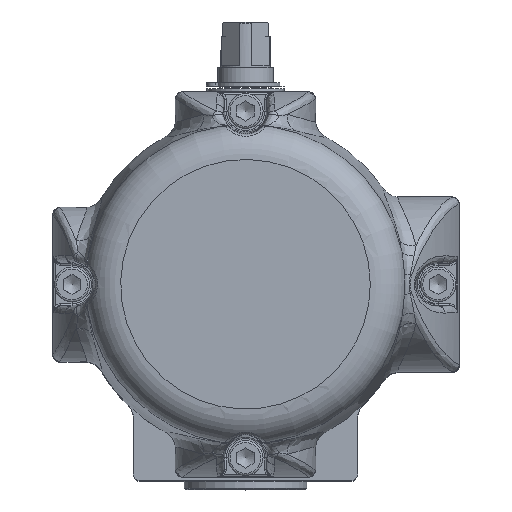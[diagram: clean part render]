
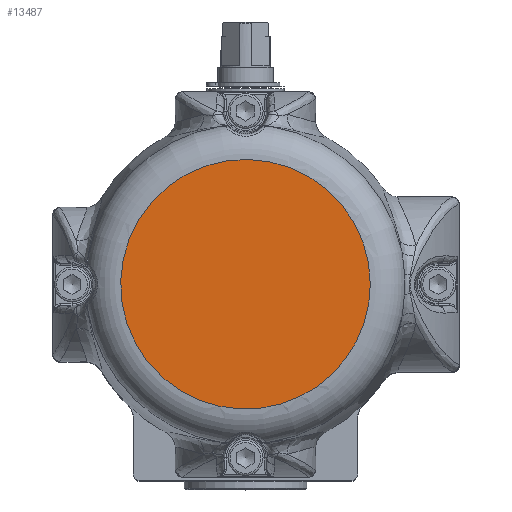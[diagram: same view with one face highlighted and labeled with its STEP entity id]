
A CAD part, top view. The second image highlights one B-rep face of the part: STEP entity #13487.
In plain terms, the highlighted planar face has unit normal (0, 0, 1).
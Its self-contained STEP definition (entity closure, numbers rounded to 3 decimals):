
#6364=CARTESIAN_POINT('',(35.612,0.,101.95));
#6365=VERTEX_POINT('',#6364);
#6366=CARTESIAN_POINT('',(0.,0.,101.95));
#6367=DIRECTION('',(0.0,0.0,-1.0));
#6368=DIRECTION('',(1.0,0.0,0.0));
#6369=AXIS2_PLACEMENT_3D('',#6366,#6367,#6368);
#6370=CIRCLE('',#6369,35.612);
#6371=EDGE_CURVE('',#6365,#6365,#6370,.T.);
#13479=CARTESIAN_POINT('',(17.806,0.,101.95));
#13480=DIRECTION('',(0.0,0.0,1.0));
#13481=DIRECTION('',(0.0,1.0,0.0));
#13482=AXIS2_PLACEMENT_3D('',#13479,#13480,#13481);
#13483=PLANE('',#13482);
#13484=ORIENTED_EDGE('',*,*,#6371,.F.);
#13485=EDGE_LOOP('',(#13484));
#13486=FACE_OUTER_BOUND('',#13485,.T.);
#13487=ADVANCED_FACE('',(#13486),#13483,.T.);
